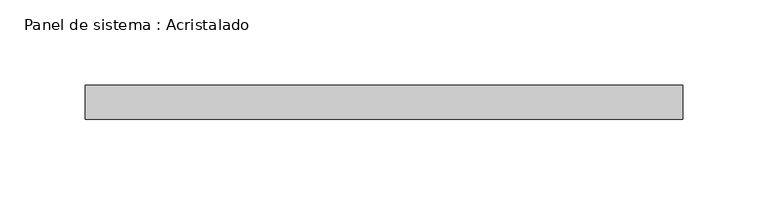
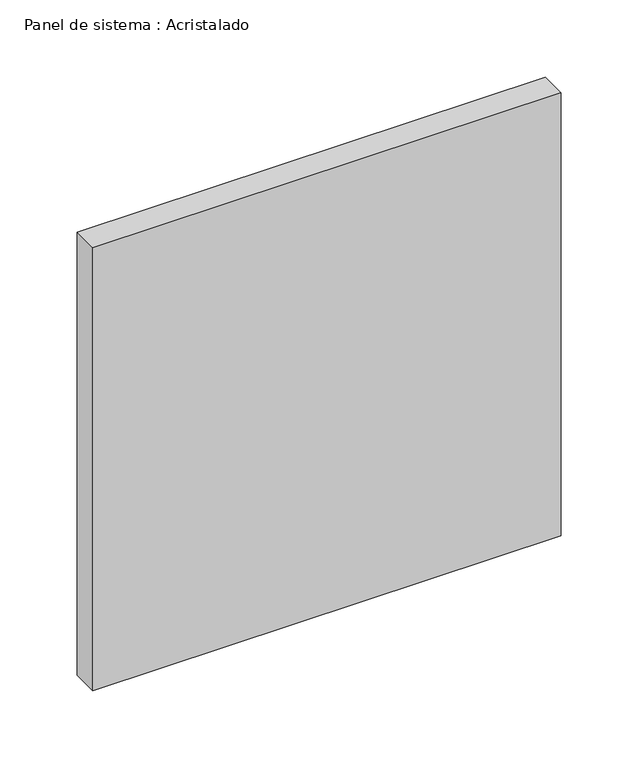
"""IFC4 building model written with IfcOpenShell, lengths in millimetres: plate geometry, Panel de sistema : Acristalado."""

import ifcopenshell
import ifcopenshell.guid

model = None  # the IFC model being written
_history = None  # IfcOwnerHistory: only IFC2X3 demands one
_inside = {}  # id of a spatial element -> (the spatial element, [elements in it])
_under = {}  # id of a project, library or spatial element -> (it, [spatial elements below it])
_declared = {}  # id of a project -> (the project, [libraries it declares])
_typed = {}  # id of a type object -> (the type object, [elements of that type])
_made_of = {}  # id of a material, layer set ... -> (it, [elements and type objects made of it])


def new_model(schema):
    """Start an empty IFC model of exactly this schema.

    Asked for "IFC4X3", IfcOpenShell would pick the latest addendum, in which some entities
    have other attributes; the version numbers below select the first issue.
    IFC2X3 requires an IfcOwnerHistory on every rooted entity: one is made here for all.
    """
    global model, _history
    if schema == "IFC4X3":
        model = ifcopenshell.file(schema_version=(4, 3, 0, 0))
    else:
        model = ifcopenshell.file(schema=schema)
    _inside.clear()
    _under.clear()
    _declared.clear()
    _typed.clear()
    _made_of.clear()
    _history = None
    if model.schema == "IFC2X3":
        org = make("IfcOrganization", Name="unknown")
        user = make(
            "IfcPersonAndOrganization",
            ThePerson=make("IfcPerson", FamilyName="unknown"),
            TheOrganization=org,
        )
        app = make(
            "IfcApplication",
            ApplicationDeveloper=org,
            Version="unknown",
            ApplicationFullName="unknown",
            ApplicationIdentifier="unknown",
        )
        _history = make(
            "IfcOwnerHistory",
            OwningUser=user,
            OwningApplication=app,
            ChangeAction="ADDED",
            CreationDate=0,
        )
    return model


def make(cls, **values):
    """One entity of the class cls with the attributes given. An attribute that is None is left unset."""
    return model.create_entity(
        cls, **{name: value for name, value in values.items() if value is not None}
    )


def rooted(cls, **values):
    """An entity with a GlobalId (a new one), such as an element, a storey or a relation."""
    return make(cls, GlobalId=ifcopenshell.guid.new(), OwnerHistory=_history, **values)


def si_unit(unit_type, name, prefix=None):
    """IfcSIUnit, for example si_unit("LENGTHUNIT", "METRE", prefix="MILLI")."""
    return make("IfcSIUnit", UnitType=unit_type, Prefix=prefix, Name=name)


def assignment(units):
    """IfcUnitAssignment: the units of a project."""
    return None if units is None else make("IfcUnitAssignment", Units=units)


def point(xyz):
    """IfcCartesianPoint."""
    return None if xyz is None else make("IfcCartesianPoint", Coordinates=xyz)


def direction(xyz):
    """IfcDirection."""
    return None if xyz is None else make("IfcDirection", DirectionRatios=xyz)


def frame(location, z_axis=None, x_axis=None):
    """IfcAxis2Placement3D, a coordinate frame: its origin and axes. An axis left out is left unset."""
    return make(
        "IfcAxis2Placement3D",
        Location=point(location),
        Axis=direction(z_axis),
        RefDirection=direction(x_axis),
    )


def origin():
    """The frame at (0, 0, 0) with its axes left unset."""
    return frame((0.0, 0.0, 0.0))


def origin_with_axes():
    """The frame at (0, 0, 0) with the z axis (0, 0, 1) and the x axis (1, 0, 0) written out."""
    return frame((0.0, 0.0, 0.0), z_axis=(0.0, 0.0, 1.0), x_axis=(1.0, 0.0, 0.0))


def place(relative_to, where):
    """IfcLocalPlacement: puts the frame where relative to a parent placement (None: the world)."""
    return make(
        "IfcLocalPlacement", PlacementRelTo=relative_to, RelativePlacement=where
    )


def context(
    kind, dimensions, precision=None, world=None, true_north=None, identifier=None
):
    """IfcGeometricRepresentationContext, for example the 3D "Model" context."""
    return make(
        "IfcGeometricRepresentationContext",
        ContextIdentifier=identifier,
        ContextType=kind,
        CoordinateSpaceDimension=dimensions,
        Precision=precision,
        WorldCoordinateSystem=world,
        TrueNorth=true_north,
    )


def project(units=None, contexts=None):
    """IfcProject with its units and contexts."""
    return rooted(
        "IfcProject",
        Name="project",
        RepresentationContexts=contexts,
        UnitsInContext=assignment(units),
    )


def spatial(cls, under=None, at=None, **own):
    """A site, building, storey or space (cls), placed at a placement, below another one or the project."""
    s = rooted(cls, ObjectPlacement=at, **own)
    if under is not None:
        _under.setdefault(under.id(), (under, []))[1].append(s)
    return s


def polyline(points):
    """IfcPolyline through the points."""
    return make("IfcPolyline", Points=[point(p) for p in points])


def outline(outer, holes=None, kind="AREA"):
    """IfcArbitraryClosedProfileDef: a profile drawn as a closed curve; with holes, ...WithVoids."""
    if holes is None:
        return make("IfcArbitraryClosedProfileDef", ProfileType=kind, OuterCurve=outer)
    return make(
        "IfcArbitraryProfileDefWithVoids",
        ProfileType=kind,
        OuterCurve=outer,
        InnerCurves=holes,
    )


def extrude(swept, where, along, depth):
    """IfcExtrudedAreaSolid: the profile swept, set in the frame where, extruded along a direction by depth."""
    return make(
        "IfcExtrudedAreaSolid",
        SweptArea=swept,
        Position=where,
        ExtrudedDirection=direction(along),
        Depth=depth,
    )


def shape(context_of_items, identifier, shape_type, items):
    """IfcShapeRepresentation: the items that make up one representation, for example the "Body"."""
    return make(
        "IfcShapeRepresentation",
        ContextOfItems=context_of_items,
        RepresentationIdentifier=identifier,
        RepresentationType=shape_type,
        Items=items,
    )


def source(mapping_origin, context_of_items, identifier, shape_type, items):
    """IfcRepresentationMap: a shape defined once, which mapped items show again and again."""
    return make(
        "IfcRepresentationMap",
        MappingOrigin=mapping_origin,
        MappedRepresentation=shape(context_of_items, identifier, shape_type, items),
    )


def transform(
    local_origin,
    x_axis=None,
    y_axis=None,
    z_axis=None,
    scale=None,
    scale2=None,
    scale3=None,
    uniform=True,
):
    """IfcCartesianTransformationOperator3D, or its non-uniform kind. x_axis, y_axis, z_axis: its Axis1, 2, 3."""
    if uniform:
        return make(
            "IfcCartesianTransformationOperator3D",
            Axis1=direction(x_axis),
            Axis2=direction(y_axis),
            LocalOrigin=point(local_origin),
            Scale=scale,
            Axis3=direction(z_axis),
        )
    return make(
        "IfcCartesianTransformationOperator3DnonUniform",
        Axis1=direction(x_axis),
        Axis2=direction(y_axis),
        LocalOrigin=point(local_origin),
        Scale=scale,
        Axis3=direction(z_axis),
        Scale2=scale2,
        Scale3=scale3,
    )


def mapped(mapping_source, mapping_target):
    """IfcMappedItem: shows the shape of a source again, moved by a transform."""
    return make(
        "IfcMappedItem", MappingSource=mapping_source, MappingTarget=mapping_target
    )


def made_of(thing, what):
    """Note that an element or type object is made of a material, layer set ...; save() writes the relation."""
    if what is not None:
        _made_of.setdefault(what.id(), (what, []))[1].append(thing)
    return thing


def element(
    cls,
    number,
    at=None,
    inside=None,
    cuts=None,
    type_object=None,
    material=None,
    context=None,
    identifier="Body",
    shape_type=None,
    held_by="IfcProductDefinitionShape",
    body=None,
    shapes=None,
    **own,
):
    """One element of the class cls, such as IfcWall. Its Tag is "e" and its number.

    at: its placement. inside: the storey or other place that contains it. cuts: it is an
    opening in that element (IfcRelVoidsElement). A single representation is given by context,
    identifier, shape_type and body (its items); several are given by shapes. held_by: the class
    of the entity that holds the representations. save() writes the other relations.
    """
    e = rooted(cls, Tag="e%d" % number, ObjectPlacement=at, **own)
    if body is not None:
        shapes = [shape(context, identifier, shape_type, body)]
    if shapes is not None:
        e.Representation = make(held_by, Representations=shapes)
    if inside is not None:
        _inside.setdefault(inside.id(), (inside, []))[1].append(e)
    if cuts is not None:
        rooted(
            "IfcRelVoidsElement", RelatingBuildingElement=cuts, RelatedOpeningElement=e
        )
    if type_object is not None:
        _typed.setdefault(type_object.id(), (type_object, []))[1].append(e)
    return made_of(e, material)


def aggregate(whole, parts):
    """IfcRelAggregates: a whole, such as a stair, and the parts it consists of."""
    return rooted("IfcRelAggregates", RelatingObject=whole, RelatedObjects=parts)


def save(model, path):
    """Write the relations noted so far, then the file.

    IfcRelAggregates (storeys below a building ...), IfcRelContainedInSpatialStructure (elements
    in a storey), IfcRelDefinesByType, IfcRelAssociatesMaterial and IfcRelDeclares: one each for
    every whole, place, type object, material and project.
    """
    for whole, parts in _under.values():
        aggregate(whole, parts)
    for where, things in _inside.values():
        rooted(
            "IfcRelContainedInSpatialStructure",
            RelatedElements=things,
            RelatingStructure=where,
        )
    for kind, things in _typed.values():
        rooted("IfcRelDefinesByType", RelatedObjects=things, RelatingType=kind)
    for what, things in _made_of.values():
        rooted("IfcRelAssociatesMaterial", RelatedObjects=things, RelatingMaterial=what)
    for by, libraries in _declared.values():
        rooted("IfcRelDeclares", RelatingContext=by, RelatedDefinitions=libraries)
    model.write(path)


def panel_de_sistema_acristalado_53b53038(model_context):
    return source(origin(), model_context, "Body", "SweptSolid", [
        extrude(outline(polyline([(175.0, -10.0), (-175.0, -10.0), (-175.0, 10.0), (175.0, 10.0), (175.0, -10.0)])), origin_with_axes(), (0.0, 0.0, 1.0), 350.0),
    ])


if __name__ == "__main__":
    model = new_model("IFC4")
    model_context = context("Model", 3, world=origin())
    ifc_project = project(units=[si_unit("LENGTHUNIT", "METRE", prefix="MILLI")], contexts=[model_context])
    site = spatial("IfcSite", under=ifc_project)
    building = spatial("IfcBuilding", under=site)
    placement = place(None, origin())
    panel_de_sistema_acristalado_shape = panel_de_sistema_acristalado_53b53038(model_context)
    element("IfcPlate", 1, ObjectType="Panel de sistema : Acristalado", at=placement, inside=building, context=model_context, shape_type="MappedRepresentation", body=[
        mapped(panel_de_sistema_acristalado_shape, transform((0.0, 0.0, 0.0), x_axis=(1.0, 0.0, 0.0), y_axis=(0.0, 1.0, 0.0), z_axis=(0.0, 0.0, 1.0))),
    ])
    save(model, "model.ifc")
